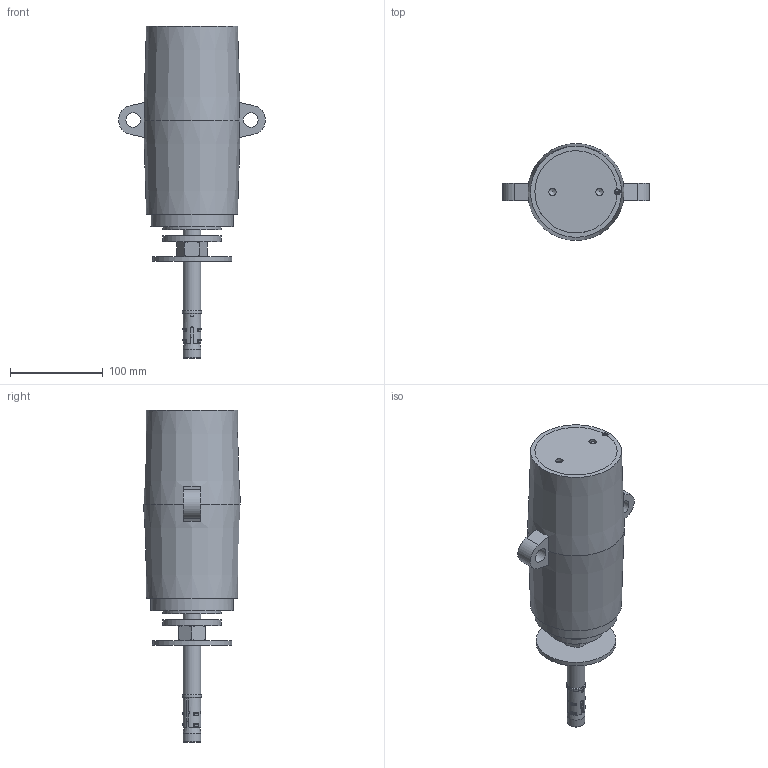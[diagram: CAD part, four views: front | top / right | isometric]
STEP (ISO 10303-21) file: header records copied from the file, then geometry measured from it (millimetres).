
FILE_DESCRIPTION(/* description */ (''),/* implementation_level */ '2;1');
FILE_NAME(/* name */ '\\Mleuckthor2\cad-proe_solids\WEBSITE FILES 05.22.13\STEP\SFFS\SFFS-8_2INCH AIR GAP.stp',/* time_stamp */ '2016-02-25T14:17:49-05:00',/* author */ ('rramoutar'),/* organization */ ('Mason Industries Inc.'),/* preprocessor_version */ 'ST-DEVELOPER v15.6',/* originating_system */ 'Autodesk Inventor 2015',/* authorisation */ '');
FILE_SCHEMA (('CONFIG_CONTROL_DESIGN'));
Length unit declared in the file: inch
Products named in the file (1): SFFS-8 PER A-27938
Bounding box: 158.75 x 104.78 x 358.77 mm (x, y, z)
Volume: 829227.1 mm3; surface area: 270828.2 mm2
Topology: 12 solids, 12 shells, 213 faces, 490 edges, 310 vertices
Faces by surface type: plane 87, cone 45, cylinder 45, bspline 25, torus 10, sphere 1
Full cylindrical faces by diameter (mm): 6.35 x1, 7.998 x2, 15.24 x1, 15.875 x3, 16.307 x2, 17.462 x1, 19.05 x2, 20.637 x4, 25.4 x1, 31.75 x2, 63.5 x4, 85.725 x1, 88.9 x2
Entity records: 6794 total; most frequent: CARTESIAN_POINT 2175, ORIENTED_EDGE 870, DIRECTION 850, EDGE_CURVE 435, AXIS2_PLACEMENT_3D 360, VERTEX_POINT 299, EDGE_LOOP 286, STYLED_ITEM 225
